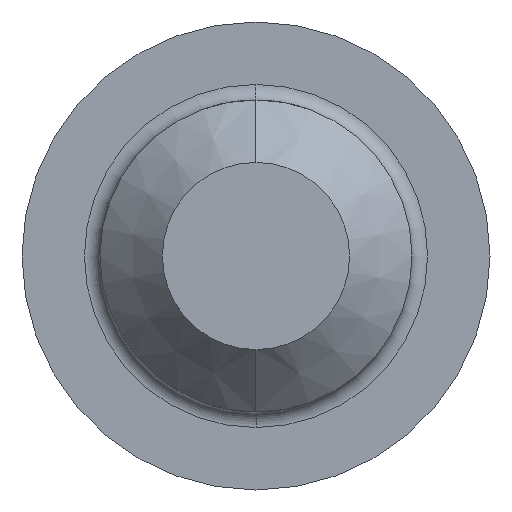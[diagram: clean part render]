
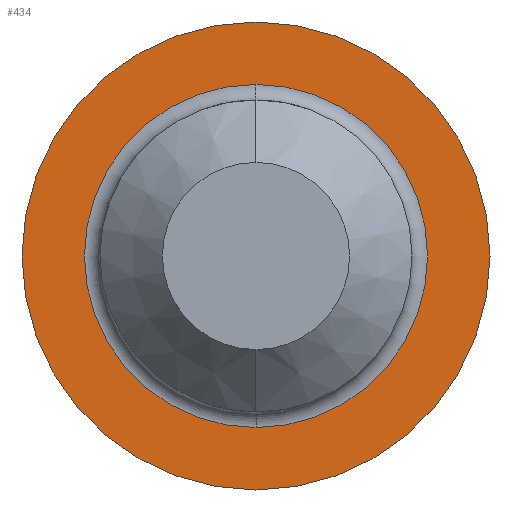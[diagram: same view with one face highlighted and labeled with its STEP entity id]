
A CAD part, left-side view. The second image highlights one B-rep face of the part: STEP entity #434.
In plain terms, the highlighted planar face has unit normal (-1, 0, 0).
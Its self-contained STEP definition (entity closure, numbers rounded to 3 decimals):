
#36 = DIRECTION ( 'NONE',  ( 0., 0., -1. ) ) ;
#37 = DIRECTION ( 'NONE',  ( 1., 0., 0. ) ) ;
#38 = CARTESIAN_POINT ( 'NONE',  ( 0., 0., 0. ) ) ;
#39 = AXIS2_PLACEMENT_3D ( 'NONE', #38, #37, #36 ) ;
#42 = DIRECTION ( 'NONE',  ( 0., 0., 1. ) ) ;
#78 = PLANE ( 'NONE',  #85 ) ;
#85 = AXIS2_PLACEMENT_3D ( 'NONE', #95, #94, #93 ) ;
#90 = CARTESIAN_POINT ( 'NONE',  ( 0., 0., 0. ) ) ;
#91 = AXIS2_PLACEMENT_3D ( 'NONE', #90, #96, #42 ) ;
#92 = CIRCLE ( 'NONE', #39, 3.3 ) ;
#93 = DIRECTION ( 'NONE',  ( 0., 0., -1. ) ) ;
#94 = DIRECTION ( 'NONE',  ( 1., 0., 0. ) ) ;
#95 = CARTESIAN_POINT ( 'NONE',  ( 0., 4.5, 0. ) ) ;
#96 = DIRECTION ( 'NONE',  ( -1., 0., 0. ) ) ;
#98 = CIRCLE ( 'NONE', #91, 4.5 ) ;
#104 = FACE_OUTER_BOUND ( 'NONE', #416, .T. ) ;
#106 = FACE_BOUND ( 'NONE', #512, .T. ) ;
#129 = CARTESIAN_POINT ( 'NONE',  ( 0., 0., -3.3 ) ) ;
#245 = DIRECTION ( 'NONE',  ( 0., 0., -1. ) ) ;
#246 = DIRECTION ( 'NONE',  ( 1., 0., 0. ) ) ;
#247 = CARTESIAN_POINT ( 'NONE',  ( 0., 0., 0. ) ) ;
#252 = AXIS2_PLACEMENT_3D ( 'NONE', #247, #246, #245 ) ;
#253 = CARTESIAN_POINT ( 'NONE',  ( 0., 0., 3.3 ) ) ;
#261 = CIRCLE ( 'NONE', #252, 3.3 ) ;
#272 = CARTESIAN_POINT ( 'NONE',  ( 0., 0., 4.5 ) ) ;
#287 = DIRECTION ( 'NONE',  ( 0., 0., 1. ) ) ;
#288 = DIRECTION ( 'NONE',  ( -1., 0., 0. ) ) ;
#289 = CARTESIAN_POINT ( 'NONE',  ( 0., 0., 0. ) ) ;
#290 = AXIS2_PLACEMENT_3D ( 'NONE', #289, #288, #287 ) ;
#293 = CIRCLE ( 'NONE', #290, 4.5 ) ;
#312 = CARTESIAN_POINT ( 'NONE',  ( 0., 0., -4.5 ) ) ;
#416 = EDGE_LOOP ( 'NONE', ( #417, #437 ) ) ;
#417 = ORIENTED_EDGE ( 'NONE', *, *, #503, .T. ) ;
#434 = ADVANCED_FACE ( 'NONE', ( #106, #104 ), #78, .F. ) ;
#435 = ORIENTED_EDGE ( 'NONE', *, *, #482, .T. ) ;
#436 = ORIENTED_EDGE ( 'NONE', *, *, #441, .T. ) ;
#437 = ORIENTED_EDGE ( 'NONE', *, *, #438, .T. ) ;
#438 = EDGE_CURVE ( 'NONE', #504, #473, #98, .T. ) ;
#441 = EDGE_CURVE ( 'NONE', #460, #481, #92, .T. ) ;
#460 = VERTEX_POINT ( 'NONE', #129 ) ;
#473 = VERTEX_POINT ( 'NONE', #272 ) ;
#481 = VERTEX_POINT ( 'NONE', #253 ) ;
#482 = EDGE_CURVE ( 'NONE', #481, #460, #261, .T. ) ;
#503 = EDGE_CURVE ( 'NONE', #473, #504, #293, .T. ) ;
#504 = VERTEX_POINT ( 'NONE', #312 ) ;
#512 = EDGE_LOOP ( 'NONE', ( #436, #435 ) ) ;
